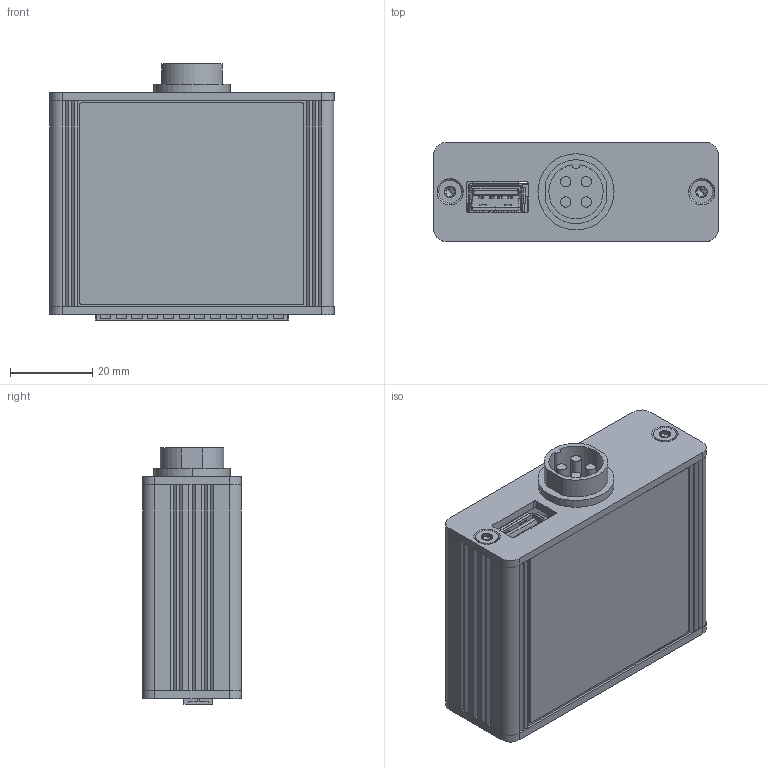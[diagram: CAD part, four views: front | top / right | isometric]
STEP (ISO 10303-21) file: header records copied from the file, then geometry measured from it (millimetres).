
FILE_DESCRIPTION (( 'STEP AP214' ), '1' );
FILE_NAME ('EGT to CAN.STEP', '2023-02-06T11:08:56', ( '' ), ( '' ), 'SwSTEP 2.0', 'SolidWorks 2021', '' );
FILE_SCHEMA (( 'AUTOMOTIVE_DESIGN' ));
Length unit declared in the file: millimetre
Products named in the file (23): EGTtoCAN_PCB_Domy˜lna; RW AKG 69 24 SA SL_Domy˜lna; P2; TR Fastenings Ltd-M3X12mm_M3X8mm; NC-panel-4-2; NC-panel-4; FP AKG 69 24 SA SL_Domy˜lna; USB-A-PORT; NC-panel-4-3; NC-panel-4-4; Board; P2-1; NC-panel-4-1; TB-3.81-12P-A; J4; P2-subassembly-1; Board-Part-1; NC4_ADAPTER; Board-2; AKG 69 24 50; EGT to CAN; J5; PCB
Assembly tree (25 placements, depth 8):
  EGT to CAN
    FP AKG 69 24 SA SL_Domy˜lna
    RW AKG 69 24 SA SL_Domy˜lna
    AKG 69 24 50
    EGTtoCAN_PCB_Domy˜lna
      PCB
        P2
          NC4_ADAPTER
            P2-1
              P2-subassembly-1
                NC-panel-4
                NC-panel-4-1
                NC-panel-4-2
                NC-panel-4-3
                NC-panel-4-4
            Board-2
        J5
          USB-A-PORT
        J4
          TB-3.81-12P-A
        Board
          Board-Part-1
    TR Fastenings Ltd-M3X12mm_M3X8mm  x4
Bounding box: 69.1 x 24 x 62.26 mm (x, y, z)
Volume: 31300.5 mm3; surface area: 43161.8 mm2
Topology: 33 solids, 33 shells, 2015 faces, 5390 edges, 3446 vertices
Faces by surface type: plane 1358, cylinder 545, bspline 80, cone 32
Entity records: 80339 total; most frequent: CARTESIAN_POINT 13647, ORIENTED_EDGE 10134, DIRECTION 8966, EDGE_CURVE 5067, LINE 3936, VECTOR 3936, VERTEX_POINT 3251, AXIS2_PLACEMENT_3D 2515
